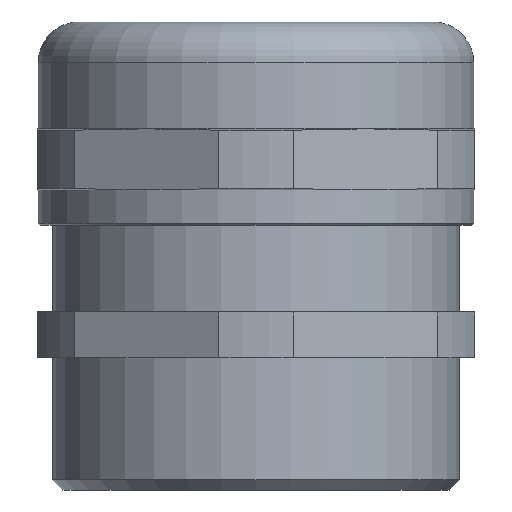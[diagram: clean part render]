
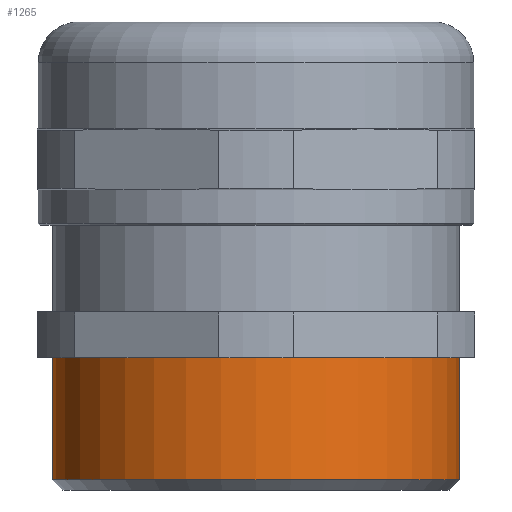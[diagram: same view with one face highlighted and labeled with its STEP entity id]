
A CAD part, front view. The second image highlights one B-rep face of the part: STEP entity #1265.
In plain terms, the highlighted cylindrical face has radius 20 mm (diameter 40 mm), a partial arc.
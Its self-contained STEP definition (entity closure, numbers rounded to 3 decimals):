
#701 = VERTEX_POINT ( 'NONE', #1524 ) ;
#712 = VERTEX_POINT ( 'NONE', #1767 ) ;
#756 = EDGE_CURVE ( 'NONE', #701, #712, #1896, .T. ) ;
#779 = VERTEX_POINT ( 'NONE', #1939 ) ;
#786 = EDGE_CURVE ( 'NONE', #779, #798, #1944, .T. ) ;
#798 = VERTEX_POINT ( 'NONE', #1913 ) ;
#871 = EDGE_CURVE ( 'NONE', #712, #798, #2083, .T. ) ;
#1146 = ORIENTED_EDGE ( 'NONE', *, *, #871, .F. ) ;
#1223 = ORIENTED_EDGE ( 'NONE', *, *, #756, .F. ) ;
#1224 = EDGE_CURVE ( 'NONE', #701, #779, #2637, .T. ) ;
#1225 = ORIENTED_EDGE ( 'NONE', *, *, #786, .T. ) ;
#1226 = EDGE_LOOP ( 'NONE', ( #1223, #1264, #1225, #1146 ) ) ;
#1264 = ORIENTED_EDGE ( 'NONE', *, *, #1224, .T. ) ;
#1265 = ADVANCED_FACE ( 'NONE', ( #2760 ), #2735, .T. ) ;
#1524 = CARTESIAN_POINT ( 'NONE',  ( 20., 0., 13. ) ) ;
#1767 = CARTESIAN_POINT ( 'NONE',  ( 20., 0., 1. ) ) ;
#1893 = DIRECTION ( 'NONE',  ( 0., 0., -1. ) ) ;
#1894 = VECTOR ( 'NONE', #1893, 1000. ) ;
#1895 = CARTESIAN_POINT ( 'NONE',  ( 20., 0., 0. ) ) ;
#1896 = LINE ( 'NONE', #1895, #1894 ) ;
#1913 = CARTESIAN_POINT ( 'NONE',  ( -20., 0., 1. ) ) ;
#1939 = CARTESIAN_POINT ( 'NONE',  ( -20., 0., 13. ) ) ;
#1941 = DIRECTION ( 'NONE',  ( 0., 0., -1. ) ) ;
#1942 = VECTOR ( 'NONE', #1941, 1000. ) ;
#1943 = CARTESIAN_POINT ( 'NONE',  ( -20., 0., 0. ) ) ;
#1944 = LINE ( 'NONE', #1943, #1942 ) ;
#2032 = DIRECTION ( 'NONE',  ( -1., 0., 0. ) ) ;
#2033 = DIRECTION ( 'NONE',  ( 0., 0., -1. ) ) ;
#2034 = AXIS2_PLACEMENT_3D ( 'NONE', #2078, #2033, #2032 ) ;
#2078 = CARTESIAN_POINT ( 'NONE',  ( 0., 0., 1. ) ) ;
#2083 = CIRCLE ( 'NONE', #2034, 20. ) ;
#2634 = DIRECTION ( 'NONE',  ( 0., 0., -1. ) ) ;
#2635 = CARTESIAN_POINT ( 'NONE',  ( 0., 0., 13. ) ) ;
#2636 = AXIS2_PLACEMENT_3D ( 'NONE', #2635, #2634, #2660 ) ;
#2637 = CIRCLE ( 'NONE', #2636, 20. ) ;
#2660 = DIRECTION ( 'NONE',  ( -1., 0., 0. ) ) ;
#2733 = DIRECTION ( 'NONE',  ( 0., 0., -1. ) ) ;
#2734 = AXIS2_PLACEMENT_3D ( 'NONE', #2752, #2733, #2745 ) ;
#2735 = CYLINDRICAL_SURFACE ( 'NONE', #2734, 20. ) ;
#2745 = DIRECTION ( 'NONE',  ( -1., 0., 0. ) ) ;
#2752 = CARTESIAN_POINT ( 'NONE',  ( 0., 0., 0. ) ) ;
#2760 = FACE_OUTER_BOUND ( 'NONE', #1226, .T. ) ;
